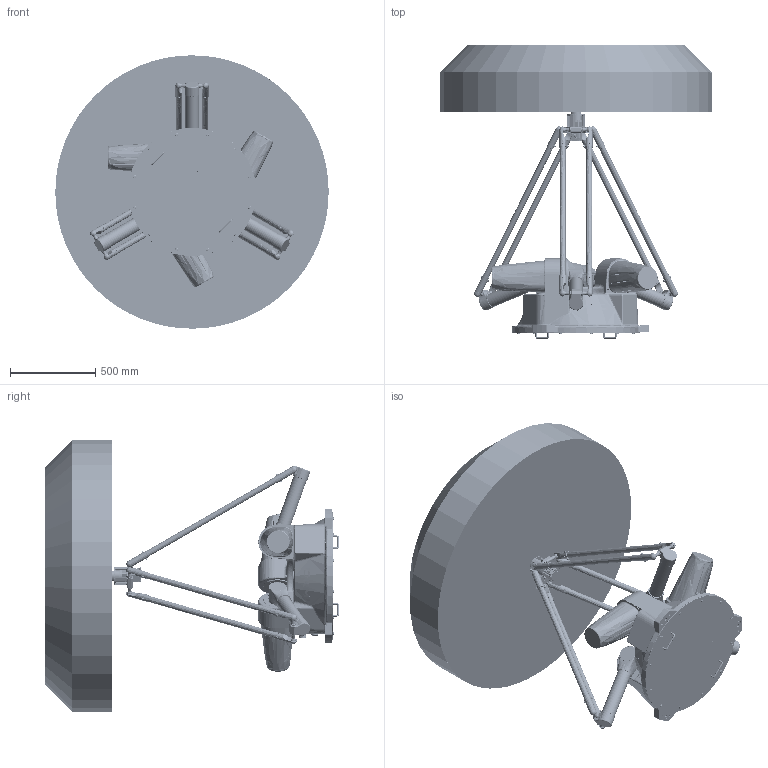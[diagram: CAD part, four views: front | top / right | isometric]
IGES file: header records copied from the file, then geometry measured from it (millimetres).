
Start section: SolidWorks IGES file using analytic representation for surfaces
Bounding box: 1599.91 x 1719 x 1599.91 mm (x, y, z)
Surface area: 11253660 mm2 (no closed solid volume)
Topology: 0 solids, 0 shells, 8519 faces, 120763 edges, 120398 vertices
Faces by surface type: bspline 4854, revolution 3665
